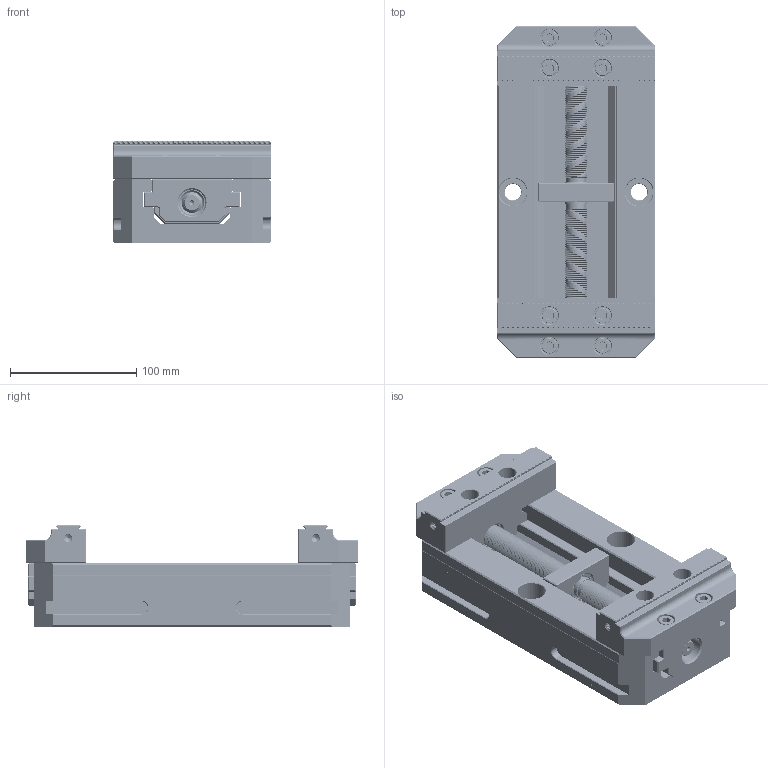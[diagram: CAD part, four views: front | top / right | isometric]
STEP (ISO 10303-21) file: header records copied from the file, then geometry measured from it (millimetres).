
FILE_DESCRIPTION(/* description */ (''),/* implementation_level */ '2;1');
FILE_NAME(/* name */ 'KSF125-250.stp',/* time_stamp */ '2025-05-19T10:51:30+08:00',/* author */ (''),/* organization */ (''),/* preprocessor_version */ 'ST-DEVELOPER v20',/* originating_system */ 'SIEMENS PLM Software NX2406.6001',/* authorisation */ '');
FILE_SCHEMA (('AUTOMOTIVE_DESIGN { 1 0 10303 214 3 1 1 1 }'));
Products named in the file (1): KSF125-250_objects
Bounding box: 125 x 263 x 80.1 mm (x, y, z)
Volume: 1377285.8 mm3; surface area: 254855.8 mm2
Topology: 17 solids, 17 shells, 2355 faces, 6430 edges, 4189 vertices
Faces by surface type: plane 1140, cylinder 650, cone 255, extrusion 202, bspline 102, torus 6
Full cylindrical faces by diameter (mm): 2 x12, 3 x1, 4.3 x27, 5 x1, 5.1 x32, 6 x5, 6.8 x80, 7 x8, 8.5 x44, 11 x2, 12 x11, 13 x2, 13.5 x2, 14 x8, 16 x6, 18 x132, 18.5 x2, 21 x4, 22 x2, 23.5 x1, 25 x1
Entity records: 204863 total; most frequent: CARTESIAN_POINT 152090, ORIENTED_EDGE 10806, DIRECTION 8643, EDGE_CURVE 5403, VERTEX_POINT 3660, AXIS2_PLACEMENT_3D 2949, VECTOR 2745, LINE 2543
